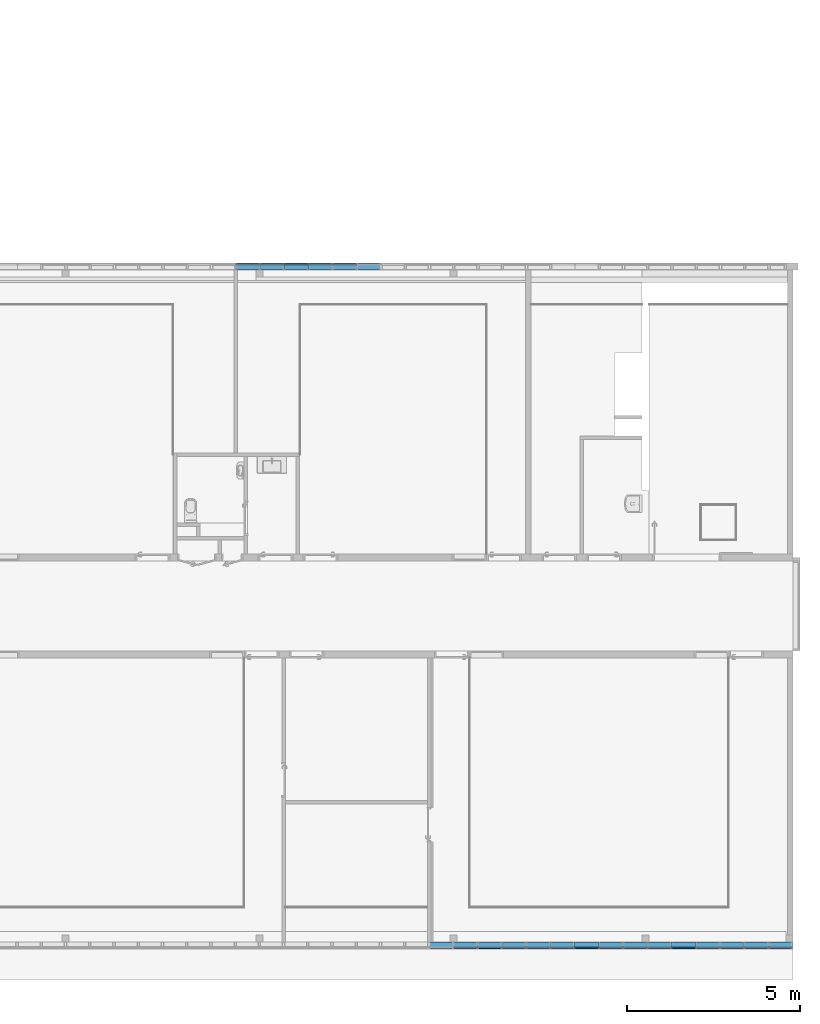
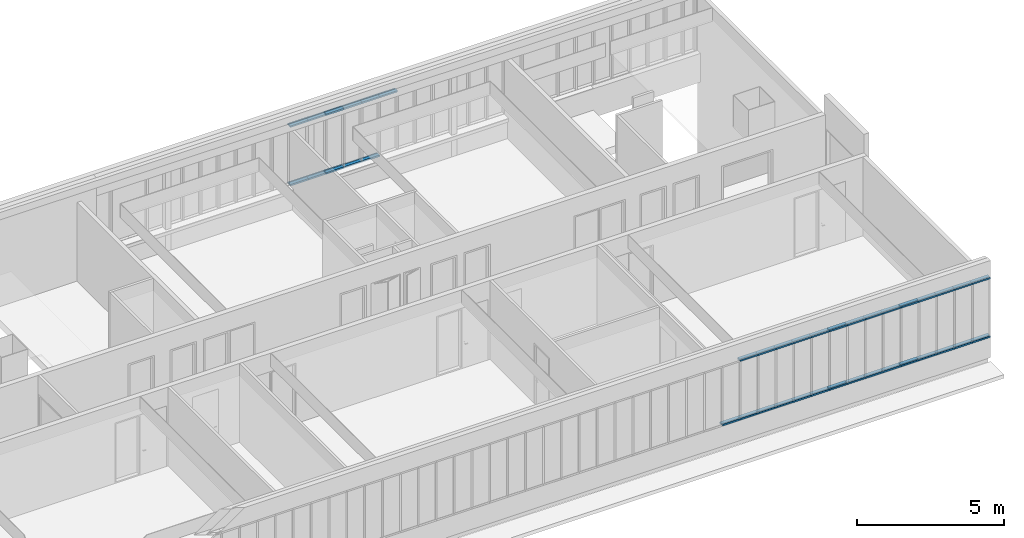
# One storey, part 17 of 87: 46 members, 2 elements without a shape of their own.
"""IFC2X3 building model written with IfcOpenShell, lengths in centimetres."""

from ifc_helpers import new_model, entity, si_unit, converted_unit, derived_unit, direction, frame, origin, place, context, subcontext, project, spatial, polyline, outline, extrude, source, transform, mapped, material, type_object, type_shapes, element, aggregate, save


model = new_model("IFC2X3")

# Units and contexts
model_context = context("Model", 3, precision=0.001, world=origin(), true_north=direction((6.12303176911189e-17, 1.0)))
body_context = subcontext(model_context, "Body", "Model", "MODEL_VIEW")
ifc_project = project(units=[si_unit("LENGTHUNIT", "METRE", prefix="CENTI"), si_unit("AREAUNIT", "SQUARE_METRE"), si_unit("VOLUMEUNIT", "CUBIC_METRE"), converted_unit("PLANEANGLEUNIT", "DEGREE", entity("IfcRatioMeasure", 0.0174532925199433), si_unit("PLANEANGLEUNIT", "RADIAN"), dimensions=[0, 0, 0, 0, 0, 0, 0]), si_unit("MASSUNIT", "GRAM", prefix="KILO"), derived_unit("MASSDENSITYUNIT", [(si_unit("MASSUNIT", "GRAM", prefix="KILO"), 1), (si_unit("LENGTHUNIT", "METRE"), -3)]), si_unit("TIMEUNIT", "SECOND"), si_unit("FREQUENCYUNIT", "HERTZ"), si_unit("THERMODYNAMICTEMPERATUREUNIT", "DEGREE_CELSIUS"), derived_unit("THERMALTRANSMITTANCEUNIT", [(si_unit("MASSUNIT", "GRAM", prefix="KILO"), 1), (si_unit("THERMODYNAMICTEMPERATUREUNIT", "KELVIN"), -1), (si_unit("TIMEUNIT", "SECOND"), -3)]), derived_unit("VOLUMETRICFLOWRATEUNIT", [(si_unit("LENGTHUNIT", "METRE"), 3), (si_unit("TIMEUNIT", "SECOND"), -1)]), si_unit("ELECTRICCURRENTUNIT", "AMPERE"), si_unit("ELECTRICVOLTAGEUNIT", "VOLT"), si_unit("POWERUNIT", "WATT"), si_unit("FORCEUNIT", "NEWTON", prefix="KILO"), si_unit("ILLUMINANCEUNIT", "LUX"), si_unit("LUMINOUSFLUXUNIT", "LUMEN"), si_unit("LUMINOUSINTENSITYUNIT", "CANDELA"), derived_unit("USERDEFINED", [(si_unit("MASSUNIT", "GRAM", prefix="KILO"), -1), (si_unit("LENGTHUNIT", "METRE"), -2), (si_unit("TIMEUNIT", "SECOND"), 3), (si_unit("LUMINOUSFLUXUNIT", "LUMEN"), 1)]), derived_unit("LINEARVELOCITYUNIT", [(si_unit("LENGTHUNIT", "METRE"), 1), (si_unit("TIMEUNIT", "SECOND"), -1)]), si_unit("PRESSUREUNIT", "PASCAL"), derived_unit("USERDEFINED", [(si_unit("LENGTHUNIT", "METRE"), -2), (si_unit("MASSUNIT", "GRAM", prefix="KILO"), 1), (si_unit("TIMEUNIT", "SECOND"), -2)])], contexts=[model_context])

# Site, building, storey
site_placement = place(None, frame((-2781.94577612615, 7442.24238424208, 0.0)))
site = spatial("IfcSite", under=ifc_project, at=site_placement, Name="Default", CompositionType="ELEMENT")
building_placement = place(site_placement, origin())
building = spatial("IfcBuilding", under=site, at=building_placement, CompositionType="ELEMENT")
storey_placement = place(building_placement, frame((0.0, 0.0, 774.0)))
storey = spatial("IfcBuildingStorey", under=building, at=storey_placement, Name="TR - N02 - ARCH", CompositionType="ELEMENT", Elevation=774.0)

# Curtain wall, members
curtain_wall_type = type_object("IfcCurtainWallType", Name="Mur-rideau:07 - mur rideau trame 70cm", PredefinedType="NOTDEFINED")
curtain_wall_1_placement = place(storey_placement, frame((0.0, 0.0, -774.0)))
curtain_wall_1 = element("IfcCurtainWall", 1, at=curtain_wall_1_placement, inside=storey, type_object=curtain_wall_type, Name="Mur-rideau:07 - mur rideau trame 70cm", ObjectType="Mur-rideau:07 - mur rideau trame 70cm")
ifc_material = material(Name="Aluminium")
member_type_1 = type_object("IfcMemberType", Name="150 x 25mm Détails", PredefinedType="MEMBER")
shared_shape_1 = source(origin(), body_context, "Body", "SweptSolid", [
    extrude(outline(polyline([(-5.6666666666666, -3.24999999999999), (-3.66666666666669, -3.24999999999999), (-3.66666666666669, -0.868749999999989), (-0.166666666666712, -0.868749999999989), (-0.166666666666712, -3.25000000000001), (13.3333333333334, -3.25000000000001), (13.3333333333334, 3.24999999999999), (-0.16666666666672, 3.24999999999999), (-0.16666666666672, 0.868749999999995), (-3.66666666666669, 0.868749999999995), (-3.66666666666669, 3.25), (-5.6666666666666, 3.25), (-5.6666666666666, -3.24999999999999)])), frame((-3.24999999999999, -1.96666666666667, -70.0), z_axis=(0.0, 0.0, 1.0), x_axis=(0.0, -1.0, 0.0)), (0.0, 0.0, 1.0), 69.9999999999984),
])
type_shapes(member_type_1, [shared_shape_1])
member_1_placement = place(storey_placement, frame((-1320.749882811, -3046.51349958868, 332.5), z_axis=(1.0, 0.0, 0.0), x_axis=(0.0, 0.0, 1.0)))
member_1 = element("IfcMember", 2, at=member_1_placement, type_object=member_type_1, material=ifc_material, Name="Meneau rectangulaire:150 x 25mm Détails", ObjectType="Meneau rectangulaire:150 x 25mm Détails", context=body_context, shape_type="MappedRepresentation", body=[
    mapped(shared_shape_1, transform((0.0, 0.0, 0.0), scale=1.0)),
])
member_2_placement = place(storey_placement, frame((-1250.749882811, -3046.51349958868, 332.5), z_axis=(1.0, 0.0, 0.0), x_axis=(0.0, 0.0, 1.0)))
member_2 = element("IfcMember", 3, at=member_2_placement, type_object=member_type_1, material=ifc_material, Name="Meneau rectangulaire:150 x 25mm Détails", ObjectType="Meneau rectangulaire:150 x 25mm Détails", context=body_context, shape_type="MappedRepresentation", body=[
    mapped(shared_shape_1, transform((0.0, 0.0, 0.0), scale=1.0)),
])
member_3_placement = place(storey_placement, frame((-1180.749882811, -3046.51349958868, 332.5), z_axis=(1.0, 0.0, 0.0), x_axis=(0.0, 0.0, 1.0)))
member_3 = element("IfcMember", 4, at=member_3_placement, type_object=member_type_1, material=ifc_material, Name="Meneau rectangulaire:150 x 25mm Détails", ObjectType="Meneau rectangulaire:150 x 25mm Détails", context=body_context, shape_type="MappedRepresentation", body=[
    mapped(shared_shape_1, transform((0.0, 0.0, 0.0), scale=1.0)),
])
member_4_placement = place(storey_placement, frame((-1110.749882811, -3046.51349958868, 332.5), z_axis=(1.0, 0.0, 0.0), x_axis=(0.0, 0.0, 1.0)))
member_4 = element("IfcMember", 5, at=member_4_placement, type_object=member_type_1, material=ifc_material, Name="Meneau rectangulaire:150 x 25mm Détails", ObjectType="Meneau rectangulaire:150 x 25mm Détails", context=body_context, shape_type="MappedRepresentation", body=[
    mapped(shared_shape_1, transform((0.0, 0.0, 0.0), scale=1.0)),
])
member_5_placement = place(storey_placement, frame((-1040.749882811, -3046.51349958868, 332.5), z_axis=(1.0, 0.0, 0.0), x_axis=(0.0, 0.0, 1.0)))
member_5 = element("IfcMember", 6, at=member_5_placement, type_object=member_type_1, material=ifc_material, Name="Meneau rectangulaire:150 x 25mm Détails", ObjectType="Meneau rectangulaire:150 x 25mm Détails", context=body_context, shape_type="MappedRepresentation", body=[
    mapped(shared_shape_1, transform((0.0, 0.0, 0.0), scale=1.0)),
])
member_6_placement = place(storey_placement, frame((-970.749882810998, -3046.51349958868, 332.5), z_axis=(1.0, 0.0, 0.0), x_axis=(0.0, 0.0, 1.0)))
member_6 = element("IfcMember", 7, at=member_6_placement, type_object=member_type_1, material=ifc_material, Name="Meneau rectangulaire:150 x 25mm Détails", ObjectType="Meneau rectangulaire:150 x 25mm Détails", context=body_context, shape_type="MappedRepresentation", body=[
    mapped(shared_shape_1, transform((0.0, 0.0, 0.0), scale=1.0)),
])
member_7_placement = place(storey_placement, frame((-900.749882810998, -3046.51349958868, 332.5), z_axis=(1.0, 0.0, 0.0), x_axis=(0.0, 0.0, 1.0)))
member_7 = element("IfcMember", 8, at=member_7_placement, type_object=member_type_1, material=ifc_material, Name="Meneau rectangulaire:150 x 25mm Détails", ObjectType="Meneau rectangulaire:150 x 25mm Détails", context=body_context, shape_type="MappedRepresentation", body=[
    mapped(shared_shape_1, transform((0.0, 0.0, 0.0), scale=1.0)),
])
member_8_placement = place(storey_placement, frame((-830.749882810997, -3046.51349958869, 332.5), z_axis=(1.0, 0.0, 0.0), x_axis=(0.0, 0.0, 1.0)))
member_8 = element("IfcMember", 9, at=member_8_placement, type_object=member_type_1, material=ifc_material, Name="Meneau rectangulaire:150 x 25mm Détails", ObjectType="Meneau rectangulaire:150 x 25mm Détails", context=body_context, shape_type="MappedRepresentation", body=[
    mapped(shared_shape_1, transform((0.0, 0.0, 0.0), scale=1.0)),
])
member_9_placement = place(storey_placement, frame((-760.749882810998, -3046.51349958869, 332.5), z_axis=(1.0, 0.0, 0.0), x_axis=(0.0, 0.0, 1.0)))
member_9 = element("IfcMember", 10, at=member_9_placement, type_object=member_type_1, material=ifc_material, Name="Meneau rectangulaire:150 x 25mm Détails", ObjectType="Meneau rectangulaire:150 x 25mm Détails", context=body_context, shape_type="MappedRepresentation", body=[
    mapped(shared_shape_1, transform((0.0, 0.0, 0.0), scale=1.0)),
])
member_10_placement = place(storey_placement, frame((-690.749882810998, -3046.51349958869, 332.5), z_axis=(1.0, 0.0, 0.0), x_axis=(0.0, 0.0, 1.0)))
member_10 = element("IfcMember", 11, at=member_10_placement, type_object=member_type_1, material=ifc_material, Name="Meneau rectangulaire:150 x 25mm Détails", ObjectType="Meneau rectangulaire:150 x 25mm Détails", context=body_context, shape_type="MappedRepresentation", body=[
    mapped(shared_shape_1, transform((0.0, 0.0, 0.0), scale=1.0)),
])
member_11_placement = place(storey_placement, frame((-620.749882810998, -3046.51349958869, 332.5), z_axis=(1.0, 0.0, 0.0), x_axis=(0.0, 0.0, 1.0)))
member_11 = element("IfcMember", 12, at=member_11_placement, type_object=member_type_1, material=ifc_material, Name="Meneau rectangulaire:150 x 25mm Détails", ObjectType="Meneau rectangulaire:150 x 25mm Détails", context=body_context, shape_type="MappedRepresentation", body=[
    mapped(shared_shape_1, transform((0.0, 0.0, 0.0), scale=1.0)),
])
member_12_placement = place(storey_placement, frame((-550.749882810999, -3046.51349958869, 332.5), z_axis=(1.0, 0.0, 0.0), x_axis=(0.0, 0.0, 1.0)))
member_12 = element("IfcMember", 13, at=member_12_placement, type_object=member_type_1, material=ifc_material, Name="Meneau rectangulaire:150 x 25mm Détails", ObjectType="Meneau rectangulaire:150 x 25mm Détails", context=body_context, shape_type="MappedRepresentation", body=[
    mapped(shared_shape_1, transform((0.0, 0.0, 0.0), scale=1.0)),
])
member_13_placement = place(storey_placement, frame((-480.749882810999, -3046.51349958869, 332.5), z_axis=(1.0, 0.0, 0.0), x_axis=(0.0, 0.0, 1.0)))
member_13 = element("IfcMember", 14, at=member_13_placement, type_object=member_type_1, material=ifc_material, Name="Meneau rectangulaire:150 x 25mm Détails", ObjectType="Meneau rectangulaire:150 x 25mm Détails", context=body_context, shape_type="MappedRepresentation", body=[
    mapped(shared_shape_1, transform((0.0, 0.0, 0.0), scale=1.0)),
])
member_type_2 = type_object("IfcMemberType", Name="150 x 25mm Détails", PredefinedType="MEMBER")
shared_shape_2 = source(origin(), body_context, "Body", "SweptSolid", [
    extrude(outline(polyline([(-5.66666666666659, -3.25), (-3.66666666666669, -3.25), (-3.66666666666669, -0.868749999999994), (-0.166666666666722, -0.868749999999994), (-0.166666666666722, -3.25000000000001), (13.3333333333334, -3.24999999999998), (13.3333333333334, 3.25000000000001), (-0.166666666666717, 3.25000000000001), (-0.166666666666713, 0.868749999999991), (-3.66666666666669, 0.868749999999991), (-3.66666666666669, 3.24999999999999), (-5.66666666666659, 3.24999999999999), (-5.66666666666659, -3.25)])), frame((-3.24999999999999, -1.96666666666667, -70.0), z_axis=(0.0, 0.0, 1.0), x_axis=(0.0, -1.0, 0.0)), (0.0, 0.0, 1.0), 69.9999999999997),
])
type_shapes(member_type_2, [shared_shape_2])
member_14_placement = place(storey_placement, frame((-1460.749882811, -3046.51349958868, 83.5000000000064), z_axis=(-1.0, 0.0, 0.0), x_axis=(0.0, 0.0, -1.0)))
member_14 = element("IfcMember", 15, at=member_14_placement, type_object=member_type_2, material=ifc_material, Name="Meneau rectangulaire:150 x 25mm Détails", ObjectType="Meneau rectangulaire:150 x 25mm Détails", context=body_context, shape_type="MappedRepresentation", body=[
    mapped(shared_shape_2, transform((0.0, 0.0, 0.0), scale=1.0)),
])
member_15_placement = place(storey_placement, frame((-1390.749882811, -3046.51349958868, 83.5000000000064), z_axis=(-1.0, 0.0, 0.0), x_axis=(0.0, 0.0, -1.0)))
member_15 = element("IfcMember", 16, at=member_15_placement, type_object=member_type_2, material=ifc_material, Name="Meneau rectangulaire:150 x 25mm Détails", ObjectType="Meneau rectangulaire:150 x 25mm Détails", context=body_context, shape_type="MappedRepresentation", body=[
    mapped(shared_shape_2, transform((0.0, 0.0, 0.0), scale=1.0)),
])
member_16_placement = place(storey_placement, frame((-1320.749882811, -3046.51349958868, 83.5000000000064), z_axis=(-1.0, 0.0, 0.0), x_axis=(0.0, 0.0, -1.0)))
member_16 = element("IfcMember", 17, at=member_16_placement, type_object=member_type_2, material=ifc_material, Name="Meneau rectangulaire:150 x 25mm Détails", ObjectType="Meneau rectangulaire:150 x 25mm Détails", context=body_context, shape_type="MappedRepresentation", body=[
    mapped(shared_shape_2, transform((0.0, 0.0, 0.0), scale=1.0)),
])
member_17_placement = place(storey_placement, frame((-1250.749882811, -3046.51349958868, 83.5000000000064), z_axis=(-1.0, 0.0, 0.0), x_axis=(0.0, 0.0, -1.0)))
member_17 = element("IfcMember", 18, at=member_17_placement, type_object=member_type_2, material=ifc_material, Name="Meneau rectangulaire:150 x 25mm Détails", ObjectType="Meneau rectangulaire:150 x 25mm Détails", context=body_context, shape_type="MappedRepresentation", body=[
    mapped(shared_shape_2, transform((0.0, 0.0, 0.0), scale=1.0)),
])
member_18_placement = place(storey_placement, frame((-1180.749882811, -3046.51349958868, 83.5000000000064), z_axis=(-1.0, 0.0, 0.0), x_axis=(0.0, 0.0, -1.0)))
member_18 = element("IfcMember", 19, at=member_18_placement, type_object=member_type_2, material=ifc_material, Name="Meneau rectangulaire:150 x 25mm Détails", ObjectType="Meneau rectangulaire:150 x 25mm Détails", context=body_context, shape_type="MappedRepresentation", body=[
    mapped(shared_shape_2, transform((0.0, 0.0, 0.0), scale=1.0)),
])
member_19_placement = place(storey_placement, frame((-1110.749882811, -3046.51349958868, 83.5000000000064), z_axis=(-1.0, 0.0, 0.0), x_axis=(0.0, 0.0, -1.0)))
member_19 = element("IfcMember", 20, at=member_19_placement, type_object=member_type_2, material=ifc_material, Name="Meneau rectangulaire:150 x 25mm Détails", ObjectType="Meneau rectangulaire:150 x 25mm Détails", context=body_context, shape_type="MappedRepresentation", body=[
    mapped(shared_shape_2, transform((0.0, 0.0, 0.0), scale=1.0)),
])
member_20_placement = place(storey_placement, frame((-1040.749882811, -3046.51349958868, 83.5000000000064), z_axis=(-1.0, 0.0, 0.0), x_axis=(0.0, 0.0, -1.0)))
member_20 = element("IfcMember", 21, at=member_20_placement, type_object=member_type_2, material=ifc_material, Name="Meneau rectangulaire:150 x 25mm Détails", ObjectType="Meneau rectangulaire:150 x 25mm Détails", context=body_context, shape_type="MappedRepresentation", body=[
    mapped(shared_shape_2, transform((0.0, 0.0, 0.0), scale=1.0)),
])
member_21_placement = place(storey_placement, frame((-970.749882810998, -3046.51349958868, 83.5000000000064), z_axis=(-1.0, 0.0, 0.0), x_axis=(0.0, 0.0, -1.0)))
member_21 = element("IfcMember", 22, at=member_21_placement, type_object=member_type_2, material=ifc_material, Name="Meneau rectangulaire:150 x 25mm Détails", ObjectType="Meneau rectangulaire:150 x 25mm Détails", context=body_context, shape_type="MappedRepresentation", body=[
    mapped(shared_shape_2, transform((0.0, 0.0, 0.0), scale=1.0)),
])
member_22_placement = place(storey_placement, frame((-900.749882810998, -3046.51349958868, 83.5000000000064), z_axis=(-1.0, 0.0, 0.0), x_axis=(0.0, 0.0, -1.0)))
member_22 = element("IfcMember", 23, at=member_22_placement, type_object=member_type_2, material=ifc_material, Name="Meneau rectangulaire:150 x 25mm Détails", ObjectType="Meneau rectangulaire:150 x 25mm Détails", context=body_context, shape_type="MappedRepresentation", body=[
    mapped(shared_shape_2, transform((0.0, 0.0, 0.0), scale=1.0)),
])
member_23_placement = place(storey_placement, frame((-830.749882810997, -3046.51349958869, 83.5000000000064), z_axis=(-1.0, 0.0, 0.0), x_axis=(0.0, 0.0, -1.0)))
member_23 = element("IfcMember", 24, at=member_23_placement, type_object=member_type_2, material=ifc_material, Name="Meneau rectangulaire:150 x 25mm Détails", ObjectType="Meneau rectangulaire:150 x 25mm Détails", context=body_context, shape_type="MappedRepresentation", body=[
    mapped(shared_shape_2, transform((0.0, 0.0, 0.0), scale=1.0)),
])
member_24_placement = place(storey_placement, frame((-760.749882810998, -3046.51349958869, 83.5000000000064), z_axis=(-1.0, 0.0, 0.0), x_axis=(0.0, 0.0, -1.0)))
member_24 = element("IfcMember", 25, at=member_24_placement, type_object=member_type_2, material=ifc_material, Name="Meneau rectangulaire:150 x 25mm Détails", ObjectType="Meneau rectangulaire:150 x 25mm Détails", context=body_context, shape_type="MappedRepresentation", body=[
    mapped(shared_shape_2, transform((0.0, 0.0, 0.0), scale=1.0)),
])
member_25_placement = place(storey_placement, frame((-690.749882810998, -3046.51349958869, 83.5000000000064), z_axis=(-1.0, 0.0, 0.0), x_axis=(0.0, 0.0, -1.0)))
member_25 = element("IfcMember", 26, at=member_25_placement, type_object=member_type_2, material=ifc_material, Name="Meneau rectangulaire:150 x 25mm Détails", ObjectType="Meneau rectangulaire:150 x 25mm Détails", context=body_context, shape_type="MappedRepresentation", body=[
    mapped(shared_shape_2, transform((0.0, 0.0, 0.0), scale=1.0)),
])
member_26_placement = place(storey_placement, frame((-620.749882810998, -3046.51349958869, 83.5000000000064), z_axis=(-1.0, 0.0, 0.0), x_axis=(0.0, 0.0, -1.0)))
member_26 = element("IfcMember", 27, at=member_26_placement, type_object=member_type_2, material=ifc_material, Name="Meneau rectangulaire:150 x 25mm Détails", ObjectType="Meneau rectangulaire:150 x 25mm Détails", context=body_context, shape_type="MappedRepresentation", body=[
    mapped(shared_shape_2, transform((0.0, 0.0, 0.0), scale=1.0)),
])
member_27_placement = place(storey_placement, frame((-550.749882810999, -3046.51349958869, 83.5000000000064), z_axis=(-1.0, 0.0, 0.0), x_axis=(0.0, 0.0, -1.0)))
member_27 = element("IfcMember", 28, at=member_27_placement, type_object=member_type_2, material=ifc_material, Name="Meneau rectangulaire:150 x 25mm Détails", ObjectType="Meneau rectangulaire:150 x 25mm Détails", context=body_context, shape_type="MappedRepresentation", body=[
    mapped(shared_shape_2, transform((0.0, 0.0, 0.0), scale=1.0)),
])
member_type_3 = type_object("IfcMemberType", Name="150 x 25mm Détails", PredefinedType="MEMBER")
shared_shape_3 = source(origin(), body_context, "Body", "SweptSolid", [
    extrude(outline(polyline([(-5.66666666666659, -3.25), (-3.66666666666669, -3.25), (-3.66666666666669, -0.868749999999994), (-0.166666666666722, -0.868749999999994), (-0.166666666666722, -3.25000000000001), (13.3333333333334, -3.24999999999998), (13.3333333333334, 3.25000000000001), (-0.166666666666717, 3.25000000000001), (-0.166666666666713, 0.868749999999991), (-3.66666666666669, 0.868749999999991), (-3.66666666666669, 3.24999999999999), (-5.66666666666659, 3.24999999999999), (-5.66666666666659, -3.25)])), frame((-3.24999999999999, -1.96666666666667, -68.0), z_axis=(0.0, 0.0, 1.0), x_axis=(0.0, -1.0, 0.0)), (0.0, 0.0, 1.0), 68.0000000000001),
])
type_shapes(member_type_3, [shared_shape_3])
member_28_placement = place(storey_placement, frame((-1039.99987760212, -3046.51349958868, 326.0), z_axis=(-1.0, 0.0, 0.0), x_axis=(0.0, 0.0, -1.0)))
member_28 = element("IfcMember", 29, at=member_28_placement, type_object=member_type_3, material=ifc_material, Name="Meneau rectangulaire:150 x 25mm Détails", ObjectType="Meneau rectangulaire:150 x 25mm Détails", context=body_context, shape_type="MappedRepresentation", body=[
    mapped(shared_shape_3, transform((0.0, 0.0, 0.0), scale=1.0)),
])
member_29_placement = place(storey_placement, frame((-759.99987760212, -3046.51349958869, 326.0), z_axis=(-1.0, 0.0, 0.0), x_axis=(0.0, 0.0, -1.0)))
member_29 = element("IfcMember", 30, at=member_29_placement, type_object=member_type_3, material=ifc_material, Name="Meneau rectangulaire:150 x 25mm Détails", ObjectType="Meneau rectangulaire:150 x 25mm Détails", context=body_context, shape_type="MappedRepresentation", body=[
    mapped(shared_shape_3, transform((0.0, 0.0, 0.0), scale=1.0)),
])
member_type_4 = type_object("IfcMemberType", Name="150 x 25mm Détails", PredefinedType="MEMBER")
shared_shape_4 = source(origin(), body_context, "Body", "SweptSolid", [
    extrude(outline(polyline([(-5.6666666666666, -3.24999999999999), (-3.66666666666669, -3.24999999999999), (-3.66666666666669, -0.868749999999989), (-0.166666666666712, -0.868749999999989), (-0.166666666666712, -3.25000000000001), (13.3333333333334, -3.25000000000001), (13.3333333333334, 3.24999999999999), (-0.16666666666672, 3.24999999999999), (-0.16666666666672, 0.868749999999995), (-3.66666666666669, 0.868749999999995), (-3.66666666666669, 3.25), (-5.6666666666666, 3.25), (-5.6666666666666, -3.24999999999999)])), frame((-3.24999999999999, -1.96666666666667, -68.0), z_axis=(0.0, 0.0, 1.0), x_axis=(0.0, -1.0, 0.0)), (0.0, 0.0, 1.0), 68.0000000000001),
])
type_shapes(member_type_4, [shared_shape_4])
member_30_placement = place(storey_placement, frame((-971.99987760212, -3046.51349958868, 90.0), z_axis=(1.0, 0.0, 0.0), x_axis=(0.0, 0.0, 1.0)))
member_30 = element("IfcMember", 31, at=member_30_placement, type_object=member_type_4, material=ifc_material, Name="Meneau rectangulaire:150 x 25mm Détails", ObjectType="Meneau rectangulaire:150 x 25mm Détails", context=body_context, shape_type="MappedRepresentation", body=[
    mapped(shared_shape_4, transform((0.0, 0.0, 0.0), scale=1.0)),
])
member_31_placement = place(storey_placement, frame((-691.99987760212, -3046.51349958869, 90.0), z_axis=(1.0, 0.0, 0.0), x_axis=(0.0, 0.0, 1.0)))
member_31 = element("IfcMember", 32, at=member_31_placement, type_object=member_type_4, material=ifc_material, Name="Meneau rectangulaire:150 x 25mm Détails", ObjectType="Meneau rectangulaire:150 x 25mm Détails", context=body_context, shape_type="MappedRepresentation", body=[
    mapped(shared_shape_4, transform((0.0, 0.0, 0.0), scale=1.0)),
])
member_type_5 = type_object("IfcMemberType", Name="150 x 25mm Détails", PredefinedType="MEMBER")
shared_shape_5 = source(origin(), body_context, "Body", "SweptSolid", [
    extrude(outline(polyline([(-5.66666666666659, -3.25), (-3.66666666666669, -3.25), (-3.66666666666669, -0.868749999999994), (-0.166666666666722, -0.868749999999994), (-0.166666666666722, -3.25000000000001), (13.3333333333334, -3.24999999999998), (13.3333333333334, 3.25000000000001), (-0.166666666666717, 3.25000000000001), (-0.166666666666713, 0.868749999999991), (-3.66666666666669, 0.868749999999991), (-3.66666666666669, 3.24999999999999), (-5.66666666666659, 3.24999999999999), (-5.66666666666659, -3.25)])), frame((-3.24999999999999, -1.96666666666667, -70.0), z_axis=(0.0, 0.0, 1.0), x_axis=(0.0, -1.0, 0.0)), (0.0, 0.0, 1.0), 69.9999999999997),
])
type_shapes(member_type_5, [shared_shape_5])
member_32_placement = place(storey_placement, frame((-480.749882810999, -3046.51349958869, 83.5000000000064), z_axis=(-1.0, 0.0, 0.0), x_axis=(0.0, 0.0, -1.0)))
member_32 = element("IfcMember", 33, at=member_32_placement, type_object=member_type_5, material=ifc_material, Name="Meneau rectangulaire:150 x 25mm Détails", ObjectType="Meneau rectangulaire:150 x 25mm Détails", context=body_context, shape_type="MappedRepresentation", body=[
    mapped(shared_shape_5, transform((0.0, 0.0, 0.0), scale=1.0)),
])
member_type_6 = type_object("IfcMemberType", Name="150 x 25mm Détails", PredefinedType="MEMBER")
shared_shape_6 = source(origin(), body_context, "Body", "SweptSolid", [
    extrude(outline(polyline([(-5.6666666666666, -3.24999999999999), (-3.66666666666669, -3.24999999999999), (-3.66666666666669, -0.868749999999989), (-0.166666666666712, -0.868749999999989), (-0.166666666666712, -3.25000000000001), (13.3333333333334, -3.25000000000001), (13.3333333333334, 3.24999999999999), (-0.16666666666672, 3.24999999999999), (-0.16666666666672, 0.868749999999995), (-3.66666666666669, 0.868749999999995), (-3.66666666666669, 3.25), (-5.6666666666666, 3.25), (-5.6666666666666, -3.24999999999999)])), frame((-3.24999999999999, -1.96666666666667, -70.0), z_axis=(0.0, 0.0, 1.0), x_axis=(0.0, -1.0, 0.0)), (0.0, 0.0, 1.0), 69.9999999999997),
])
type_shapes(member_type_6, [shared_shape_6])
member_33_placement = place(storey_placement, frame((-410.749882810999, -3046.51349958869, 332.5), z_axis=(1.0, 0.0, 0.0), x_axis=(0.0, 0.0, 1.0)))
member_33 = element("IfcMember", 34, at=member_33_placement, type_object=member_type_6, material=ifc_material, Name="Meneau rectangulaire:150 x 25mm Détails", ObjectType="Meneau rectangulaire:150 x 25mm Détails", context=body_context, shape_type="MappedRepresentation", body=[
    mapped(shared_shape_6, transform((0.0, 0.0, 0.0), scale=1.0)),
])
aggregate(curtain_wall_1, [member_1, member_2, member_3, member_4, member_14, member_15, member_16, member_17, member_18, member_19, member_5, member_6, member_7, member_8, member_9, member_10, member_11, member_12, member_20, member_21, member_22, member_23, member_24, member_25, member_26, member_27, member_13, member_32, member_33, member_28, member_30, member_29, member_31])

curtain_wall_2_placement = place(storey_placement, frame((0.0, 0.0, -774.0)))
curtain_wall_2 = element("IfcCurtainWall", 35, at=curtain_wall_2_placement, inside=storey, type_object=curtain_wall_type, Name="Mur-rideau:07 - mur rideau trame 70cm", ObjectType="Mur-rideau:07 - mur rideau trame 70cm")
member_type_7 = type_object("IfcMemberType", Name="150 x 25mm Détails", PredefinedType="MEMBER")
shared_shape_7 = source(origin(), body_context, "Body", "SweptSolid", [
    extrude(outline(polyline([(-13.3333333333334, -3.25000000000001), (0.166666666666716, -3.25000000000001), (0.166666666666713, -0.86874999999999), (3.66666666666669, -0.86874999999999), (3.66666666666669, -3.24999999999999), (5.66666666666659, -3.24999999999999), (5.66666666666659, 3.25), (3.66666666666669, 3.25), (3.66666666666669, 0.868749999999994), (0.166666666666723, 0.868749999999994), (0.166666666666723, 3.25000000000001), (-13.3333333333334, 3.24999999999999), (-13.3333333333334, -3.25000000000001)])), frame((-3.24999999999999, 1.96666666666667, -70.0), z_axis=(0.0, 0.0, 1.0), x_axis=(0.0, -1.0, 0.0)), (0.0, 0.0, 1.0), 69.9999999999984),
])
type_shapes(member_type_7, [shared_shape_7])
member_34_placement = place(storey_placement, frame((-1949.29988284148, -1073.7999999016, 332.5), z_axis=(1.0, 0.0, 0.0), x_axis=(0.0, 0.0, 1.0)))
member_34 = element("IfcMember", 36, at=member_34_placement, type_object=member_type_7, material=ifc_material, Name="Meneau rectangulaire:150 x 25mm Détails", ObjectType="Meneau rectangulaire:150 x 25mm Détails", context=body_context, shape_type="MappedRepresentation", body=[
    mapped(shared_shape_7, transform((0.0, 0.0, 0.0), scale=1.0)),
])
member_35_placement = place(storey_placement, frame((-1879.29988284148, -1073.7999999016, 332.5), z_axis=(1.0, 0.0, 0.0), x_axis=(0.0, 0.0, 1.0)))
member_35 = element("IfcMember", 37, at=member_35_placement, type_object=member_type_7, material=ifc_material, Name="Meneau rectangulaire:150 x 25mm Détails", ObjectType="Meneau rectangulaire:150 x 25mm Détails", context=body_context, shape_type="MappedRepresentation", body=[
    mapped(shared_shape_7, transform((0.0, 0.0, 0.0), scale=1.0)),
])
member_36_placement = place(storey_placement, frame((-1809.29988284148, -1073.7999999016, 332.5), z_axis=(1.0, 0.0, 0.0), x_axis=(0.0, 0.0, 1.0)))
member_36 = element("IfcMember", 38, at=member_36_placement, type_object=member_type_7, material=ifc_material, Name="Meneau rectangulaire:150 x 25mm Détails", ObjectType="Meneau rectangulaire:150 x 25mm Détails", context=body_context, shape_type="MappedRepresentation", body=[
    mapped(shared_shape_7, transform((0.0, 0.0, 0.0), scale=1.0)),
])
member_37_placement = place(storey_placement, frame((-1739.29988284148, -1073.7999999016, 332.5), z_axis=(1.0, 0.0, 0.0), x_axis=(0.0, 0.0, 1.0)))
member_37 = element("IfcMember", 39, at=member_37_placement, type_object=member_type_7, material=ifc_material, Name="Meneau rectangulaire:150 x 25mm Détails", ObjectType="Meneau rectangulaire:150 x 25mm Détails", context=body_context, shape_type="MappedRepresentation", body=[
    mapped(shared_shape_7, transform((0.0, 0.0, 0.0), scale=1.0)),
])
member_38_placement = place(storey_placement, frame((-1669.29988284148, -1073.7999999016, 332.5), z_axis=(1.0, 0.0, 0.0), x_axis=(0.0, 0.0, 1.0)))
member_38 = element("IfcMember", 40, at=member_38_placement, type_object=member_type_7, material=ifc_material, Name="Meneau rectangulaire:150 x 25mm Détails", ObjectType="Meneau rectangulaire:150 x 25mm Détails", context=body_context, shape_type="MappedRepresentation", body=[
    mapped(shared_shape_7, transform((0.0, 0.0, 0.0), scale=1.0)),
])
member_39_placement = place(storey_placement, frame((-1599.29988284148, -1073.7999999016, 332.5), z_axis=(1.0, 0.0, 0.0), x_axis=(0.0, 0.0, 1.0)))
member_39 = element("IfcMember", 41, at=member_39_placement, type_object=member_type_7, material=ifc_material, Name="Meneau rectangulaire:150 x 25mm Détails", ObjectType="Meneau rectangulaire:150 x 25mm Détails", context=body_context, shape_type="MappedRepresentation", body=[
    mapped(shared_shape_7, transform((0.0, 0.0, 0.0), scale=1.0)),
])
member_type_8 = type_object("IfcMemberType", Name="150 x 25mm Détails", PredefinedType="MEMBER")
shared_shape_8 = source(origin(), body_context, "Body", "SweptSolid", [
    extrude(outline(polyline([(-13.3333333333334, -3.24999999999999), (0.166666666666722, -3.24999999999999), (0.166666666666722, -0.868749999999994), (3.66666666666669, -0.868749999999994), (3.66666666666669, -3.25), (5.66666666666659, -3.25), (5.66666666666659, 3.24999999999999), (3.66666666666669, 3.24999999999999), (3.66666666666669, 0.86874999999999), (0.166666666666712, 0.86874999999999), (0.166666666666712, 3.25000000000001), (-13.3333333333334, 3.25000000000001), (-13.3333333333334, -3.24999999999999)])), frame((-3.24999999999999, 1.96666666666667, -70.0), z_axis=(0.0, 0.0, 1.0), x_axis=(0.0, -1.0, 0.0)), (0.0, 0.0, 1.0), 69.9999999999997),
])
type_shapes(member_type_8, [shared_shape_8])
member_40_placement = place(storey_placement, frame((-2019.29988284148, -1073.7999999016, 83.5), z_axis=(-1.0, 0.0, 0.0), x_axis=(0.0, 0.0, -1.0)))
member_40 = element("IfcMember", 42, at=member_40_placement, type_object=member_type_8, material=ifc_material, Name="Meneau rectangulaire:150 x 25mm Détails", ObjectType="Meneau rectangulaire:150 x 25mm Détails", context=body_context, shape_type="MappedRepresentation", body=[
    mapped(shared_shape_8, transform((0.0, 0.0, 0.0), scale=1.0)),
])
member_41_placement = place(storey_placement, frame((-1949.29988284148, -1073.7999999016, 83.5), z_axis=(-1.0, 0.0, 0.0), x_axis=(0.0, 0.0, -1.0)))
member_41 = element("IfcMember", 43, at=member_41_placement, type_object=member_type_8, material=ifc_material, Name="Meneau rectangulaire:150 x 25mm Détails", ObjectType="Meneau rectangulaire:150 x 25mm Détails", context=body_context, shape_type="MappedRepresentation", body=[
    mapped(shared_shape_8, transform((0.0, 0.0, 0.0), scale=1.0)),
])
member_42_placement = place(storey_placement, frame((-1879.29988284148, -1073.7999999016, 83.5), z_axis=(-1.0, 0.0, 0.0), x_axis=(0.0, 0.0, -1.0)))
member_42 = element("IfcMember", 44, at=member_42_placement, type_object=member_type_8, material=ifc_material, Name="Meneau rectangulaire:150 x 25mm Détails", ObjectType="Meneau rectangulaire:150 x 25mm Détails", context=body_context, shape_type="MappedRepresentation", body=[
    mapped(shared_shape_8, transform((0.0, 0.0, 0.0), scale=1.0)),
])
member_43_placement = place(storey_placement, frame((-1809.29988284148, -1073.7999999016, 83.5), z_axis=(-1.0, 0.0, 0.0), x_axis=(0.0, 0.0, -1.0)))
member_43 = element("IfcMember", 45, at=member_43_placement, type_object=member_type_8, material=ifc_material, Name="Meneau rectangulaire:150 x 25mm Détails", ObjectType="Meneau rectangulaire:150 x 25mm Détails", context=body_context, shape_type="MappedRepresentation", body=[
    mapped(shared_shape_8, transform((0.0, 0.0, 0.0), scale=1.0)),
])
member_44_placement = place(storey_placement, frame((-1739.29988284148, -1073.7999999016, 83.5), z_axis=(-1.0, 0.0, 0.0), x_axis=(0.0, 0.0, -1.0)))
member_44 = element("IfcMember", 46, at=member_44_placement, type_object=member_type_8, material=ifc_material, Name="Meneau rectangulaire:150 x 25mm Détails", ObjectType="Meneau rectangulaire:150 x 25mm Détails", context=body_context, shape_type="MappedRepresentation", body=[
    mapped(shared_shape_8, transform((0.0, 0.0, 0.0), scale=1.0)),
])
member_type_9 = type_object("IfcMemberType", Name="150 x 25mm Détails", PredefinedType="MEMBER")
shared_shape_9 = source(origin(), body_context, "Body", "SweptSolid", [
    extrude(outline(polyline([(-13.3333333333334, -3.25000000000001), (0.166666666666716, -3.25000000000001), (0.166666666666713, -0.86874999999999), (3.66666666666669, -0.86874999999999), (3.66666666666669, -3.24999999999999), (5.66666666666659, -3.24999999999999), (5.66666666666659, 3.25), (3.66666666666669, 3.25), (3.66666666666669, 0.868749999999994), (0.166666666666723, 0.868749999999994), (0.166666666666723, 3.25000000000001), (-13.3333333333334, 3.24999999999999), (-13.3333333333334, -3.25000000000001)])), frame((-3.24999999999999, 1.96666666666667, -68.0), z_axis=(0.0, 0.0, 1.0), x_axis=(0.0, -1.0, 0.0)), (0.0, 0.0, 1.0), 67.9999999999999),
])
type_shapes(member_type_9, [shared_shape_9])
member_45_placement = place(storey_placement, frame((-1810.26863284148, -1073.7999999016, 90.0), z_axis=(1.0, 0.0, 0.0), x_axis=(0.0, 0.0, 1.0)))
member_45 = element("IfcMember", 47, at=member_45_placement, type_object=member_type_9, material=ifc_material, Name="Meneau rectangulaire:150 x 25mm Détails", ObjectType="Meneau rectangulaire:150 x 25mm Détails", context=body_context, shape_type="MappedRepresentation", body=[
    mapped(shared_shape_9, transform((0.0, 0.0, 0.0), scale=1.0)),
])
member_type_10 = type_object("IfcMemberType", Name="150 x 25mm Détails", PredefinedType="MEMBER")
shared_shape_10 = source(origin(), body_context, "Body", "SweptSolid", [
    extrude(outline(polyline([(-13.3333333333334, -3.24999999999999), (0.166666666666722, -3.24999999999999), (0.166666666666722, -0.868749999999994), (3.66666666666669, -0.868749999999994), (3.66666666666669, -3.25), (5.66666666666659, -3.25), (5.66666666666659, 3.24999999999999), (3.66666666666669, 3.24999999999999), (3.66666666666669, 0.86874999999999), (0.166666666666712, 0.86874999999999), (0.166666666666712, 3.25000000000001), (-13.3333333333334, 3.25000000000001), (-13.3333333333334, -3.24999999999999)])), frame((-3.24999999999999, 1.96666666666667, -68.0), z_axis=(0.0, 0.0, 1.0), x_axis=(0.0, -1.0, 0.0)), (0.0, 0.0, 1.0), 67.9999999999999),
])
type_shapes(member_type_10, [shared_shape_10])
member_46_placement = place(storey_placement, frame((-1878.26863284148, -1073.7999999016, 326.0), z_axis=(-1.0, 0.0, 0.0), x_axis=(0.0, 0.0, -1.0)))
member_46 = element("IfcMember", 48, at=member_46_placement, type_object=member_type_10, material=ifc_material, Name="Meneau rectangulaire:150 x 25mm Détails", ObjectType="Meneau rectangulaire:150 x 25mm Détails", context=body_context, shape_type="MappedRepresentation", body=[
    mapped(shared_shape_10, transform((0.0, 0.0, 0.0), scale=1.0)),
])
aggregate(curtain_wall_2, [member_34, member_35, member_36, member_37, member_38, member_39, member_40, member_41, member_42, member_43, member_44, member_45, member_46])

save(model, "model.ifc")
